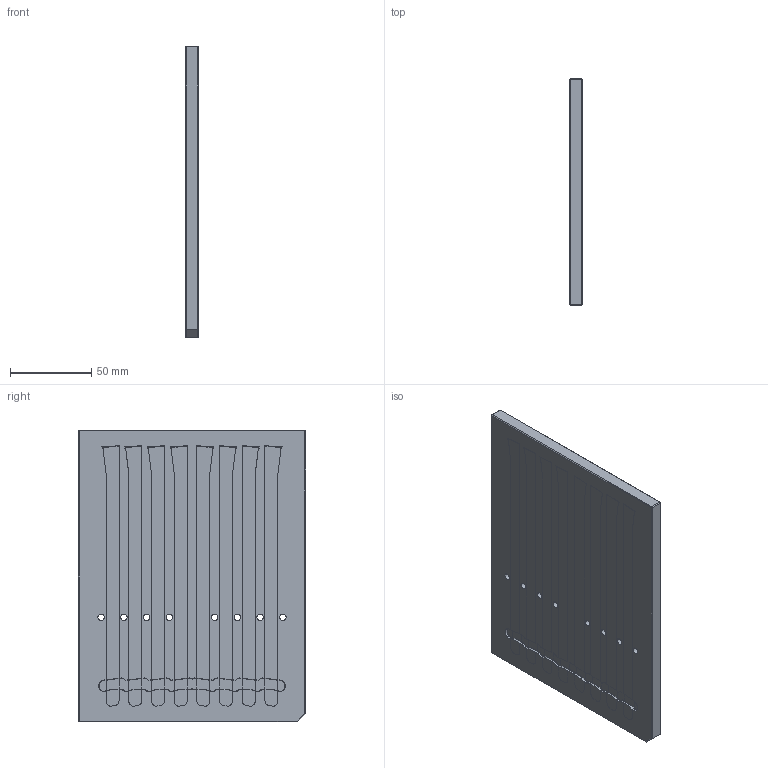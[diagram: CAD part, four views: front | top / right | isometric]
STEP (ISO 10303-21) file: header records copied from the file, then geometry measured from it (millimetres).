
FILE_DESCRIPTION(('CATIA V5 STEP Exchange','CAx-IF Rec.Pracs.--- Model Styling and Organization---1.4--- 2014-01-23'),'2;1');
FILE_NAME('K:\Stampi di Lavorazione\11PI0391\11PI0391 F001-Dima x B006 B007.stp','2021-09-23T06:27:27+00:00',('none'),('none'),'CATIA Version 5-6 Release 2016 SP6','CATIA V5 STEP AP214','none');
FILE_SCHEMA(('AUTOMOTIVE_DESIGN { 1 0 10303 214 1 1 1 1 }'));
Length unit declared in the file: millimetre
Products named in the file (4): 11PI0391 F001-Dima x B006 B007; 11PI0391 B006-Stecca 1; 11PI0391 B007-Stecca 2; 11PI0391 F001-Grezzo
Assembly tree (9 placements, depth 2):
  11PI0391 F001-Dima x B006 B007
    11PI0391 B006-Stecca 1  x4
    11PI0391 B007-Stecca 2  x4
    11PI0391 F001-Grezzo
Bounding box: 8 x 140 x 180 mm (x, y, z)
Volume: 197700.3 mm3; surface area: 98987.6 mm2
Topology: 9 solids, 9 shells, 836 faces, 2406 edges, 1574 vertices
Faces by surface type: plane 448, cylinder 236, torus 112, bspline 40
Entity records: 17671 total; most frequent: CARTESIAN_POINT 4898, ORIENTED_EDGE 2856, DIRECTION 1984, EDGE_CURVE 1428, VERTEX_POINT 914, AXIS2_PLACEMENT_3D 824, VECTOR 790, LINE 790
